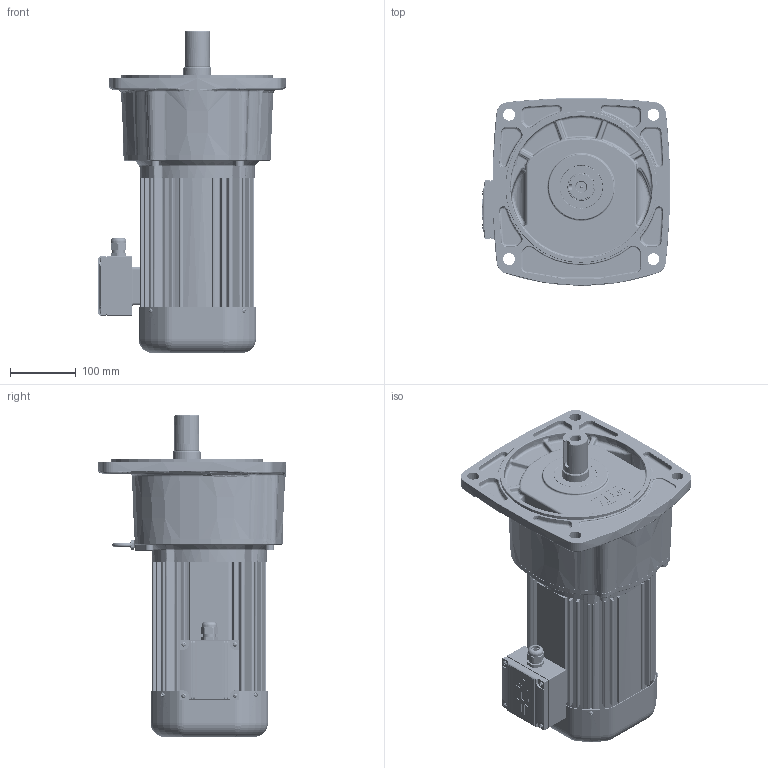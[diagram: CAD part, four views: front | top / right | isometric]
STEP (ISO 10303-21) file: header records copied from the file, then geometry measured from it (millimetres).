
FILE_DESCRIPTION(/* description */ (''),/* implementation_level */ '2;1');
FILE_NAME(/* name */ 'Z:\동력 3D 파일\PAF40_1.5kW_3D.stp',/* time_stamp */ '2021-11-08T16:01:53+09:00',/* author */ ('jaebok'),/* organization */ (''),/* preprocessor_version */ 'ST-DEVELOPER v18.1',/* originating_system */ 'Autodesk Inventor 2022',/* authorisation */ '');
FILE_SCHEMA (('AUTOMOTIVE_DESIGN { 1 0 10303 214 3 1 1 }'));
Products named in the file (1): 부품21
Bounding box: 285.12 x 284.62 x 488.5 mm (x, y, z)
Volume: 4367312.6 mm3; surface area: 1121530.8 mm2
Topology: 1 solids, 32 shells, 4110 faces, 10234 edges, 6045 vertices
Faces by surface type: bspline 1274, plane 1093, cylinder 970, torus 379, cone 277, sphere 117
Full cylindrical faces by diameter (mm): 2 x1, 3.25 x1, 3.6 x4, 4 x22, 4.917 x4, 5 x17, 6 x1, 6.647 x1, 6.8 x4, 7 x13, 8 x8, 8.8 x4, 10 x1, 12.5 x1, 13 x4, 15 x1, 16 x1, 20 x2, 20.6 x1, 21 x1, 22 x1, 23.6 x1, 25 x1, 26 x1, 28 x1, 36 x1, 38 x2, 39.6 x1, 40 x2, 40.15 x1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
Entity records: 168295 total; most frequent: CARTESIAN_POINT 75046, ORIENTED_EDGE 19960, DIRECTION 16678, EDGE_CURVE 9980, AXIS2_PLACEMENT_3D 6871, VERTEX_POINT 6043, EDGE_LOOP 4347, FACE_OUTER_BOUND 4110
